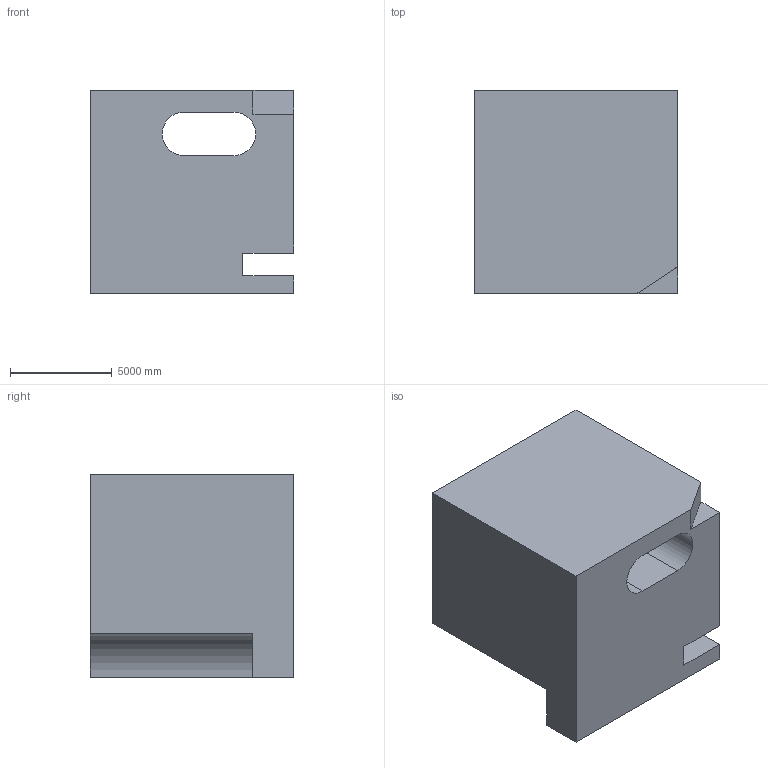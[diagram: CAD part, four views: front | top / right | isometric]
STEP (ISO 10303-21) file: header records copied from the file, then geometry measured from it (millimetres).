
FILE_DESCRIPTION (( 'STEP AP203' ), '1' );
FILE_NAME ('1432.STEP', '2022-08-18T14:26:23', ( 'user' ), ( '' ), 'SwSTEP 2.0', 'SolidWorks 2021', '' );
FILE_SCHEMA (( 'CONFIG_CONTROL_DESIGN' ));
Length unit declared in the file: centimetre
Products named in the file (1): 1432
Bounding box: 10000 x 10000 x 10000 mm (x, y, z)
Volume: 835547822340.1 mm3; surface area: 760308158 mm2
Topology: 1 solids, 1 shells, 25 faces, 66 edges, 44 vertices
Faces by surface type: plane 18, cylinder 7
Entity records: 857 total; most frequent: CARTESIAN_POINT 136, DIRECTION 134, ORIENTED_EDGE 132, EDGE_CURVE 66, VECTOR 50, LINE 50, VERTEX_POINT 44, AXIS2_PLACEMENT_3D 42
